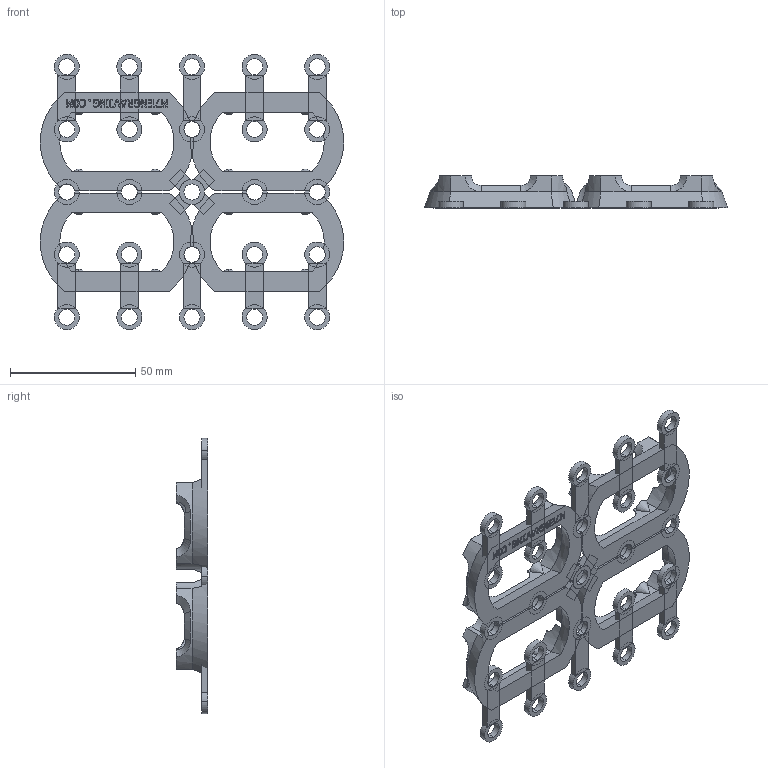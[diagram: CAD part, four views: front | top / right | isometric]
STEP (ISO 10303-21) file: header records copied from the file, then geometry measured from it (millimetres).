
FILE_DESCRIPTION (( 'STEP AP203' ), '1' );
FILE_NAME ('multidogtag.STEP', '2022-12-19T00:12:47', ( '' ), ( '' ), 'SwSTEP 2.0', 'SolidWorks 2013', '' );
FILE_SCHEMA (( 'CONFIG_CONTROL_DESIGN' ));
Length unit declared in the file: inch
Products named in the file (95): Part2^multidogtag; Part3^multidogtag; Part4^multidogtag; dog tag holder; multidogtag
Assembly tree (97 placements, depth 2):
  multidogtag
    dog tag holder
    dog tag holder
    dog tag holder
    dog tag holder
    Part2^multidogtag
    Part2^multidogtag
    Part2^multidogtag
    Part2^multidogtag
    Part2^multidogtag
    Part2^multidogtag
    Part2^multidogtag
    Part2^multidogtag
    Part2^multidogtag
    Part2^multidogtag
    Part2^multidogtag
    Part2^multidogtag
    Part2^multidogtag
    Part2^multidogtag
    Part2^multidogtag
    Part2^multidogtag
    Part2^multidogtag
    Part2^multidogtag
    Part2^multidogtag
    Part2^multidogtag
    Part2^multidogtag
    Part2^multidogtag
    Part2^multidogtag
    Part2^multidogtag
    Part2^multidogtag
    Part2^multidogtag
    Part2^multidogtag
    Part2^multidogtag
    Part2^multidogtag
    Part2^multidogtag
    Part2^multidogtag
    Part2^multidogtag
    Part2^multidogtag
    Part2^multidogtag
    Part2^multidogtag
    Part2^multidogtag
    Part2^multidogtag
    Part2^multidogtag
    Part2^multidogtag
    Part2^multidogtag
    Part2^multidogtag
    Part2^multidogtag
    Part2^multidogtag
    Part2^multidogtag
    Part2^multidogtag
    Part2^multidogtag
    Part2^multidogtag
    Part2^multidogtag
    Part2^multidogtag
    Part2^multidogtag
    Part2^multidogtag
    Part2^multidogtag
    Part2^multidogtag
    Part2^multidogtag
    Part2^multidogtag
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Bounding box: 121.24 x 12.7 x 110 mm (x, y, z)
Volume: 38896.2 mm3; surface area: 42589.1 mm2
Topology: 99 solids, 99 shells, 1156 faces, 2740 edges, 1792 vertices
Faces by surface type: plane 582, cylinder 426, bspline 76, cone 72
Entity records: 49487 total; most frequent: CARTESIAN_POINT 12460, DIRECTION 5596, ORIENTED_EDGE 5336, EDGE_CURVE 2668, AXIS2_PLACEMENT_3D 2102, VERTEX_POINT 1760, LINE 1392, VECTOR 1392
